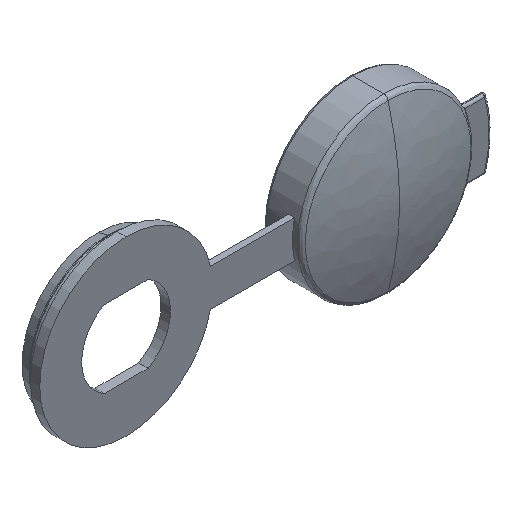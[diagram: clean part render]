
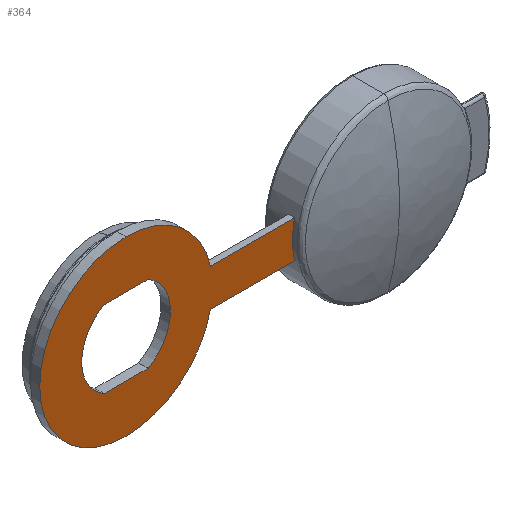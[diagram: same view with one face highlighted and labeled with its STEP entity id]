
A CAD part, isometric view. The second image highlights one B-rep face of the part: STEP entity #364.
In plain terms, the highlighted planar face has unit normal (0, -1, 0).
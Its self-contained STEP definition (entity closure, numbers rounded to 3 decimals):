
#16 = VERTEX_POINT ( 'NONE', #685 ) ;
#30 = ORIENTED_EDGE ( 'NONE', *, *, #822, .F. ) ;
#39 = CARTESIAN_POINT ( 'NONE',  ( 0., 0., 0. ) ) ;
#42 = CARTESIAN_POINT ( 'NONE',  ( 36.062, 0., -4. ) ) ;
#44 = VERTEX_POINT ( 'NONE', #1825 ) ;
#73 = VERTEX_POINT ( 'NONE', #42 ) ;
#79 = VERTEX_POINT ( 'NONE', #2025 ) ;
#138 = LINE ( 'NONE', #1473, #962 ) ;
#148 = AXIS2_PLACEMENT_3D ( 'NONE', #402, #1548, #563 ) ;
#157 = CARTESIAN_POINT ( 'NONE',  ( 0., 0., 4. ) ) ;
#160 = DIRECTION ( 'NONE',  ( 0., 0., -1. ) ) ;
#171 = VECTOR ( 'NONE', #1622, 1000. ) ;
#174 = EDGE_CURVE ( 'NONE', #2129, #711, #221, .T. ) ;
#212 = DIRECTION ( 'NONE',  ( 0., 0., -1. ) ) ;
#221 = CIRCLE ( 'NONE', #1943, 9.5 ) ;
#237 = ORIENTED_EDGE ( 'NONE', *, *, #1703, .F. ) ;
#245 = LINE ( 'NONE', #475, #1949 ) ;
#246 = VERTEX_POINT ( 'NONE', #495 ) ;
#301 = CIRCLE ( 'NONE', #148, 18.5 ) ;
#328 = DIRECTION ( 'NONE',  ( 1., 0., 0. ) ) ;
#350 = CARTESIAN_POINT ( 'NONE',  ( 0., 0., 0. ) ) ;
#360 = ORIENTED_EDGE ( 'NONE', *, *, #1675, .F. ) ;
#363 = EDGE_CURVE ( 'NONE', #246, #44, #301, .T. ) ;
#364 = ADVANCED_FACE ( 'NONE', ( #1181, #1563 ), #1219, .F. ) ;
#372 = AXIS2_PLACEMENT_3D ( 'NONE', #423, #1577, #588 ) ;
#402 = CARTESIAN_POINT ( 'NONE',  ( 0., 0., 0. ) ) ;
#415 = EDGE_CURVE ( 'NONE', #1999, #774, #1514, .T. ) ;
#423 = CARTESIAN_POINT ( 'NONE',  ( 0., 0., 0. ) ) ;
#455 = ORIENTED_EDGE ( 'NONE', *, *, #363, .F. ) ;
#475 = CARTESIAN_POINT ( 'NONE',  ( 0., 0., 8.25 ) ) ;
#495 = CARTESIAN_POINT ( 'NONE',  ( 0., 0., 18.5 ) ) ;
#512 = VECTOR ( 'NONE', #328, 1000. ) ;
#563 = DIRECTION ( 'NONE',  ( 0., 0., -1. ) ) ;
#586 = ORIENTED_EDGE ( 'NONE', *, *, #1725, .F. ) ;
#588 = DIRECTION ( 'NONE',  ( 0., 0., -1. ) ) ;
#591 = AXIS2_PLACEMENT_3D ( 'NONE', #1384, #1715, #726 ) ;
#685 = CARTESIAN_POINT ( 'NONE',  ( 0., 0., -18.5 ) ) ;
#711 = VERTEX_POINT ( 'NONE', #1391 ) ;
#726 = DIRECTION ( 'NONE',  ( 0., 0., 1. ) ) ;
#753 = CARTESIAN_POINT ( 'NONE',  ( 18.062, 0., -4. ) ) ;
#760 = AXIS2_PLACEMENT_3D ( 'NONE', #2141, #1156, #160 ) ;
#774 = VERTEX_POINT ( 'NONE', #1902 ) ;
#804 = DIRECTION ( 'NONE',  ( 0., -1., 0. ) ) ;
#822 = EDGE_CURVE ( 'NONE', #44, #79, #938, .T. ) ;
#916 = AXIS2_PLACEMENT_3D ( 'NONE', #1786, #804, #1965 ) ;
#938 = LINE ( 'NONE', #157, #512 ) ;
#959 = VERTEX_POINT ( 'NONE', #753 ) ;
#962 = VECTOR ( 'NONE', #1649, 1000. ) ;
#965 = CIRCLE ( 'NONE', #1747, 18.5 ) ;
#1036 = LINE ( 'NONE', #1771, #171 ) ;
#1043 = EDGE_LOOP ( 'NONE', ( #586, #30, #455, #1337, #1359, #237 ) ) ;
#1142 = ORIENTED_EDGE ( 'NONE', *, *, #1478, .F. ) ;
#1156 = DIRECTION ( 'NONE',  ( 0., -1., 0. ) ) ;
#1181 = FACE_OUTER_BOUND ( 'NONE', #1043, .T. ) ;
#1190 = EDGE_CURVE ( 'NONE', #959, #16, #965, .T. ) ;
#1202 = DIRECTION ( 'NONE',  ( 0., 1., 0. ) ) ;
#1219 = PLANE ( 'NONE',  #591 ) ;
#1324 = EDGE_LOOP ( 'NONE', ( #1657, #360, #1347, #1142 ) ) ;
#1337 = ORIENTED_EDGE ( 'NONE', *, *, #2148, .F. ) ;
#1347 = ORIENTED_EDGE ( 'NONE', *, *, #174, .F. ) ;
#1359 = ORIENTED_EDGE ( 'NONE', *, *, #1190, .F. ) ;
#1384 = CARTESIAN_POINT ( 'NONE',  ( 0., 0., 0. ) ) ;
#1391 = CARTESIAN_POINT ( 'NONE',  ( 4.71, 0., 8.25 ) ) ;
#1414 = DIRECTION ( 'NONE',  ( 0., 0., -1. ) ) ;
#1473 = CARTESIAN_POINT ( 'NONE',  ( 0., 0., -4. ) ) ;
#1478 = EDGE_CURVE ( 'NONE', #774, #2129, #1036, .T. ) ;
#1504 = DIRECTION ( 'NONE',  ( 0., -1., 0. ) ) ;
#1514 = CIRCLE ( 'NONE', #916, 9.5 ) ;
#1548 = DIRECTION ( 'NONE',  ( 0., 1., 0. ) ) ;
#1563 = FACE_BOUND ( 'NONE', #1324, .T. ) ;
#1571 = CARTESIAN_POINT ( 'NONE',  ( 4.71, 0., -8.25 ) ) ;
#1577 = DIRECTION ( 'NONE',  ( 0., 1., 0. ) ) ;
#1622 = DIRECTION ( 'NONE',  ( 1., 0., 0. ) ) ;
#1626 = CARTESIAN_POINT ( 'NONE',  ( -4.71, 0., 8.25 ) ) ;
#1630 = DIRECTION ( 'NONE',  ( -1., 0., 0. ) ) ;
#1649 = DIRECTION ( 'NONE',  ( -1., 0., 0. ) ) ;
#1657 = ORIENTED_EDGE ( 'NONE', *, *, #415, .F. ) ;
#1669 = CIRCLE ( 'NONE', #372, 18.5 ) ;
#1675 = EDGE_CURVE ( 'NONE', #711, #1999, #245, .T. ) ;
#1703 = EDGE_CURVE ( 'NONE', #73, #959, #138, .T. ) ;
#1715 = DIRECTION ( 'NONE',  ( 0., 1., 0. ) ) ;
#1725 = EDGE_CURVE ( 'NONE', #79, #73, #1834, .T. ) ;
#1747 = AXIS2_PLACEMENT_3D ( 'NONE', #39, #1202, #212 ) ;
#1771 = CARTESIAN_POINT ( 'NONE',  ( 0., 0., -8.25 ) ) ;
#1786 = CARTESIAN_POINT ( 'NONE',  ( 0., 0., 0. ) ) ;
#1825 = CARTESIAN_POINT ( 'NONE',  ( 18.062, 0., 4. ) ) ;
#1834 = CIRCLE ( 'NONE', #760, 18.5 ) ;
#1902 = CARTESIAN_POINT ( 'NONE',  ( -4.71, 0., -8.25 ) ) ;
#1943 = AXIS2_PLACEMENT_3D ( 'NONE', #350, #1504, #1414 ) ;
#1949 = VECTOR ( 'NONE', #1630, 1000. ) ;
#1965 = DIRECTION ( 'NONE',  ( 0., 0., -1. ) ) ;
#1999 = VERTEX_POINT ( 'NONE', #1626 ) ;
#2025 = CARTESIAN_POINT ( 'NONE',  ( 36.062, 0., 4. ) ) ;
#2129 = VERTEX_POINT ( 'NONE', #1571 ) ;
#2141 = CARTESIAN_POINT ( 'NONE',  ( 54.125, 0., 0. ) ) ;
#2148 = EDGE_CURVE ( 'NONE', #16, #246, #1669, .T. ) ;
